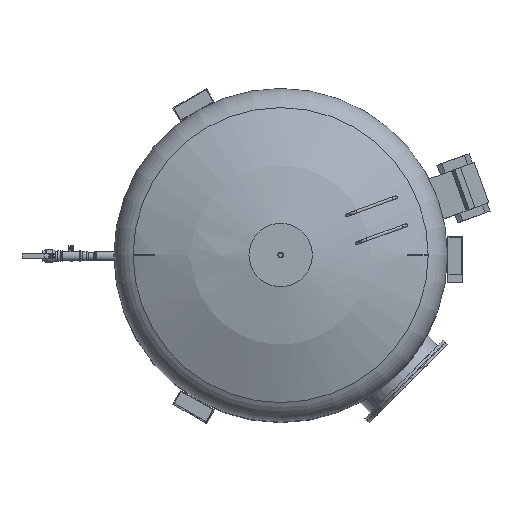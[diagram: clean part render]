
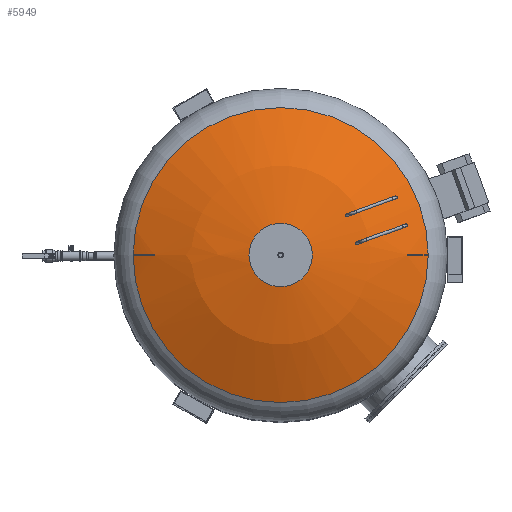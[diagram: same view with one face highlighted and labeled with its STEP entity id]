
A CAD part, top view. The second image highlights one B-rep face of the part: STEP entity #5949.
In plain terms, the highlighted spherical face has radius 1806 mm.
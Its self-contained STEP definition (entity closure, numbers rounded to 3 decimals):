
#21=SPHERICAL_SURFACE('',#6630,1806.);
#158=FACE_BOUND('',#917,.T.);
#549=FACE_OUTER_BOUND('',#916,.T.);
#916=EDGE_LOOP('',(#4892,#4893,#4894,#4895,#4896,#4897,#4898,#4899,#4900,
#4901,#4902,#4903,#4904,#4905));
#917=EDGE_LOOP('',(#4906,#4907,#4908,#4909));
#2079=CIRCLE('',#6504,1805.308);
#2080=CIRCLE('',#6506,1805.999);
#2085=CIRCLE('',#6514,1805.308);
#2086=CIRCLE('',#6516,1805.999);
#2087=CIRCLE('',#6518,1805.308);
#2088=CIRCLE('',#6519,1805.308);
#2089=CIRCLE('',#6521,1805.999);
#2094=CIRCLE('',#6529,1805.308);
#2095=CIRCLE('',#6530,1805.308);
#2096=CIRCLE('',#6532,1805.999);
#2120=CIRCLE('',#6572,795.978);
#2121=CIRCLE('',#6573,795.978);
#2144=CIRCLE('',#6609,153.);
#2145=CIRCLE('',#6610,153.);
#2159=CIRCLE('',#6631,1806.);
#2160=CIRCLE('',#6632,1806.);
#2588=VERTEX_POINT('',#9981);
#2589=VERTEX_POINT('',#9982);
#2592=VERTEX_POINT('',#9990);
#2597=VERTEX_POINT('',#10006);
#2598=VERTEX_POINT('',#10012);
#2599=VERTEX_POINT('',#10013);
#2602=VERTEX_POINT('',#10019);
#2603=VERTEX_POINT('',#10023);
#2608=VERTEX_POINT('',#10039);
#2609=VERTEX_POINT('',#10040);
#2656=VERTEX_POINT('',#10216);
#2657=VERTEX_POINT('',#10218);
#2678=VERTEX_POINT('',#10281);
#2679=VERTEX_POINT('',#10282);
#3324=EDGE_CURVE('',#2588,#2589,#2079,.T.);
#3328=EDGE_CURVE('',#2592,#2588,#2080,.T.);
#3336=EDGE_CURVE('',#2597,#2592,#2085,.T.);
#3338=EDGE_CURVE('',#2589,#2597,#2086,.T.);
#3339=EDGE_CURVE('',#2598,#2599,#2087,.T.);
#3343=EDGE_CURVE('',#2599,#2602,#2088,.T.);
#3344=EDGE_CURVE('',#2603,#2598,#2089,.T.);
#3352=EDGE_CURVE('',#2608,#2609,#2094,.T.);
#3354=EDGE_CURVE('',#2609,#2603,#2095,.T.);
#3355=EDGE_CURVE('',#2602,#2608,#2096,.T.);
#3417=EDGE_CURVE('',#2656,#2657,#2120,.T.);
#3418=EDGE_CURVE('',#2657,#2656,#2121,.T.);
#3446=EDGE_CURVE('',#2678,#2679,#2144,.T.);
#3447=EDGE_CURVE('',#2679,#2678,#2145,.T.);
#3465=EDGE_CURVE('',#2678,#2609,#2159,.T.);
#3466=EDGE_CURVE('',#2599,#2657,#2160,.T.);
#4892=ORIENTED_EDGE('',*,*,#3446,.T.);
#4893=ORIENTED_EDGE('',*,*,#3447,.T.);
#4894=ORIENTED_EDGE('',*,*,#3465,.T.);
#4895=ORIENTED_EDGE('',*,*,#3354,.T.);
#4896=ORIENTED_EDGE('',*,*,#3344,.T.);
#4897=ORIENTED_EDGE('',*,*,#3339,.T.);
#4898=ORIENTED_EDGE('',*,*,#3466,.T.);
#4899=ORIENTED_EDGE('',*,*,#3417,.F.);
#4900=ORIENTED_EDGE('',*,*,#3418,.F.);
#4901=ORIENTED_EDGE('',*,*,#3466,.F.);
#4902=ORIENTED_EDGE('',*,*,#3343,.T.);
#4903=ORIENTED_EDGE('',*,*,#3355,.T.);
#4904=ORIENTED_EDGE('',*,*,#3352,.T.);
#4905=ORIENTED_EDGE('',*,*,#3465,.F.);
#4906=ORIENTED_EDGE('',*,*,#3328,.T.);
#4907=ORIENTED_EDGE('',*,*,#3324,.T.);
#4908=ORIENTED_EDGE('',*,*,#3338,.T.);
#4909=ORIENTED_EDGE('',*,*,#3336,.T.);
#5949=ADVANCED_FACE('',(#549,#158),#21,.T.);
#6504=AXIS2_PLACEMENT_3D('',#9983,#7862,#7863);
#6506=AXIS2_PLACEMENT_3D('',#9991,#7869,#7870);
#6514=AXIS2_PLACEMENT_3D('',#10007,#7888,#7889);
#6516=AXIS2_PLACEMENT_3D('',#10010,#7893,#7894);
#6518=AXIS2_PLACEMENT_3D('',#10014,#7897,#7898);
#6519=AXIS2_PLACEMENT_3D('',#10021,#7902,#7903);
#6521=AXIS2_PLACEMENT_3D('',#10024,#7906,#7907);
#6529=AXIS2_PLACEMENT_3D('',#10041,#7925,#7926);
#6530=AXIS2_PLACEMENT_3D('',#10043,#7928,#7929);
#6532=AXIS2_PLACEMENT_3D('',#10045,#7932,#7933);
#6572=AXIS2_PLACEMENT_3D('',#10219,#8026,#8027);
#6573=AXIS2_PLACEMENT_3D('',#10220,#8028,#8029);
#6609=AXIS2_PLACEMENT_3D('',#10283,#8105,#8106);
#6610=AXIS2_PLACEMENT_3D('',#10284,#8107,#8108);
#6630=AXIS2_PLACEMENT_3D('',#10318,#8151,#8152);
#6631=AXIS2_PLACEMENT_3D('',#10319,#8153,#8154);
#6632=AXIS2_PLACEMENT_3D('',#10320,#8155,#8156);
#7862=DIRECTION('center_axis',(-0.915,0.,0.403));
#7863=DIRECTION('ref_axis',(-0.403,0.,-0.915));
#7869=DIRECTION('center_axis',(0.,-1.,0.));
#7870=DIRECTION('ref_axis',(0.,0.,1.));
#7888=DIRECTION('center_axis',(0.915,0.,-0.403));
#7889=DIRECTION('ref_axis',(0.403,0.,0.915));
#7893=DIRECTION('center_axis',(0.,1.,0.));
#7894=DIRECTION('ref_axis',(0.,0.,-1.));
#7897=DIRECTION('center_axis',(-0.915,0.,-0.403));
#7898=DIRECTION('ref_axis',(0.403,0.,-0.915));
#7902=DIRECTION('center_axis',(-0.915,0.,-0.403));
#7903=DIRECTION('ref_axis',(0.403,0.,-0.915));
#7906=DIRECTION('center_axis',(0.,-1.,0.));
#7907=DIRECTION('ref_axis',(0.,0.,1.));
#7925=DIRECTION('center_axis',(0.915,0.,0.403));
#7926=DIRECTION('ref_axis',(-0.403,0.,0.915));
#7928=DIRECTION('center_axis',(0.915,0.,0.403));
#7929=DIRECTION('ref_axis',(-0.403,0.,0.915));
#7932=DIRECTION('center_axis',(0.,1.,0.));
#7933=DIRECTION('ref_axis',(0.,0.,-1.));
#8026=DIRECTION('center_axis',(0.,0.,-1.));
#8027=DIRECTION('ref_axis',(1.,0.,0.));
#8028=DIRECTION('center_axis',(0.,0.,-1.));
#8029=DIRECTION('ref_axis',(1.,0.,0.));
#8105=DIRECTION('center_axis',(0.,0.,-1.));
#8106=DIRECTION('ref_axis',(1.,0.,0.));
#8107=DIRECTION('center_axis',(0.,0.,-1.));
#8108=DIRECTION('ref_axis',(1.,0.,0.));
#8151=DIRECTION('center_axis',(0.,0.,1.));
#8152=DIRECTION('ref_axis',(1.,0.,0.));
#8153=DIRECTION('center_axis',(0.,-1.,0.));
#8154=DIRECTION('ref_axis',(-1.,0.,0.));
#8155=DIRECTION('center_axis',(0.,-1.,0.));
#8156=DIRECTION('ref_axis',(-1.,0.,0.));
#9981=CARTESIAN_POINT('',(682.148,-2.,3206.267));
#9982=CARTESIAN_POINT('',(682.148,2.,3206.267));
#9983=CARTESIAN_POINT('Origin',(-45.756,0.,1554.211));
#9990=CARTESIAN_POINT('',(773.659,-2.,3165.947));
#9991=CARTESIAN_POINT('Origin',(0.,-2.,1534.051));
#10006=CARTESIAN_POINT('',(773.659,2.,3165.947));
#10007=CARTESIAN_POINT('Origin',(45.756,0.,1513.891));
#10010=CARTESIAN_POINT('Origin',(0.,2.,1534.051));
#10012=CARTESIAN_POINT('',(-773.659,-2.,3165.947));
#10013=CARTESIAN_POINT('',(-773.659,0.,3165.948));
#10014=CARTESIAN_POINT('Origin',(-45.756,0.,1513.891));
#10019=CARTESIAN_POINT('',(-773.659,2.,3165.947));
#10021=CARTESIAN_POINT('Origin',(-45.756,0.,1513.891));
#10023=CARTESIAN_POINT('',(-682.148,-2.,3206.267));
#10024=CARTESIAN_POINT('Origin',(0.,-2.,1534.051));
#10039=CARTESIAN_POINT('',(-682.148,2.,3206.267));
#10040=CARTESIAN_POINT('',(-682.148,0.,3206.268));
#10041=CARTESIAN_POINT('Origin',(45.756,0.,1554.211));
#10043=CARTESIAN_POINT('Origin',(45.756,0.,1554.211));
#10045=CARTESIAN_POINT('Origin',(0.,2.,1534.051));
#10216=CARTESIAN_POINT('',(795.978,0.,3155.179));
#10218=CARTESIAN_POINT('',(-795.978,0.,3155.179));
#10219=CARTESIAN_POINT('Origin',(0.,0.,3155.179));
#10220=CARTESIAN_POINT('Origin',(0.,0.,3155.179));
#10281=CARTESIAN_POINT('',(-153.,0.,3333.558));
#10282=CARTESIAN_POINT('',(153.,0.,3333.558));
#10283=CARTESIAN_POINT('Origin',(0.,0.,3333.558));
#10284=CARTESIAN_POINT('Origin',(0.,0.,3333.558));
#10318=CARTESIAN_POINT('Origin',(0.,0.,1534.051));
#10319=CARTESIAN_POINT('Origin',(0.,0.,1534.051));
#10320=CARTESIAN_POINT('Origin',(0.,0.,1534.051));
